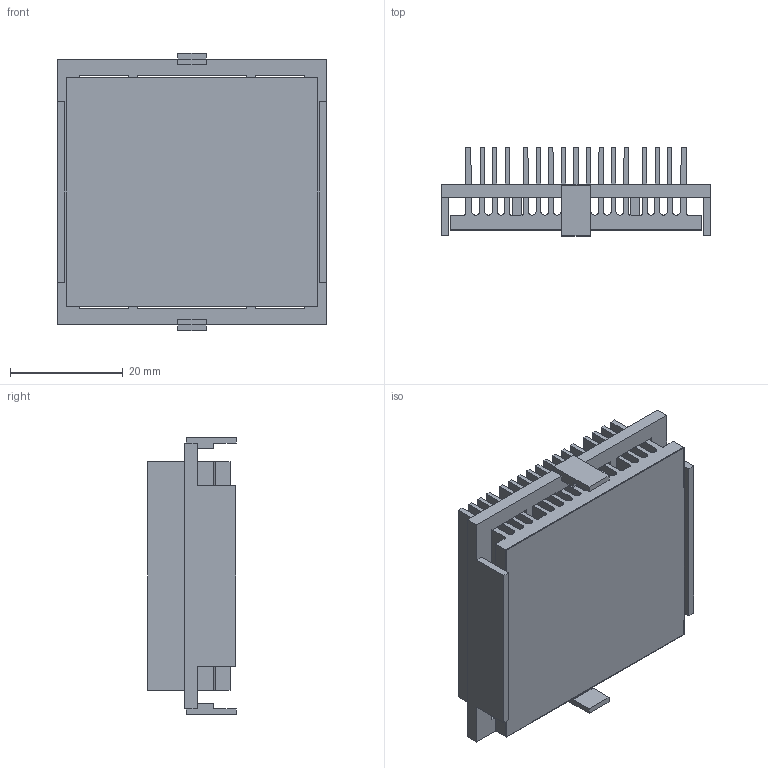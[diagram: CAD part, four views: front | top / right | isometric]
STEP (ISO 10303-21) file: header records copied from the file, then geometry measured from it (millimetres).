
FILE_DESCRIPTION (( 'STEP AP214' ), '1' );
FILE_NAME ('INH45001-15-2.6O.STEP', '2023-02-20T22:15:53', ( '' ), ( '' ), 'SwSTEP 2.0', 'SolidWorks 2020', '' );
FILE_SCHEMA (( 'AUTOMOTIVE_DESIGN' ));
Length unit declared in the file: millimetre
Products named in the file (1): INH45001-15-2.6O
Bounding box: 47.7 x 15.71 x 49.2 mm (x, y, z)
Volume: 13991.2 mm3; surface area: 27561.2 mm2
Topology: 3 solids, 3 shells, 172 faces, 498 edges, 332 vertices
Faces by surface type: plane 138, cylinder 34
Entity records: 7558 total; most frequent: CARTESIAN_POINT 1003, ORIENTED_EDGE 996, DIRECTION 912, EDGE_CURVE 498, LINE 430, VECTOR 430, VERTEX_POINT 332, AXIS2_PLACEMENT_3D 241
